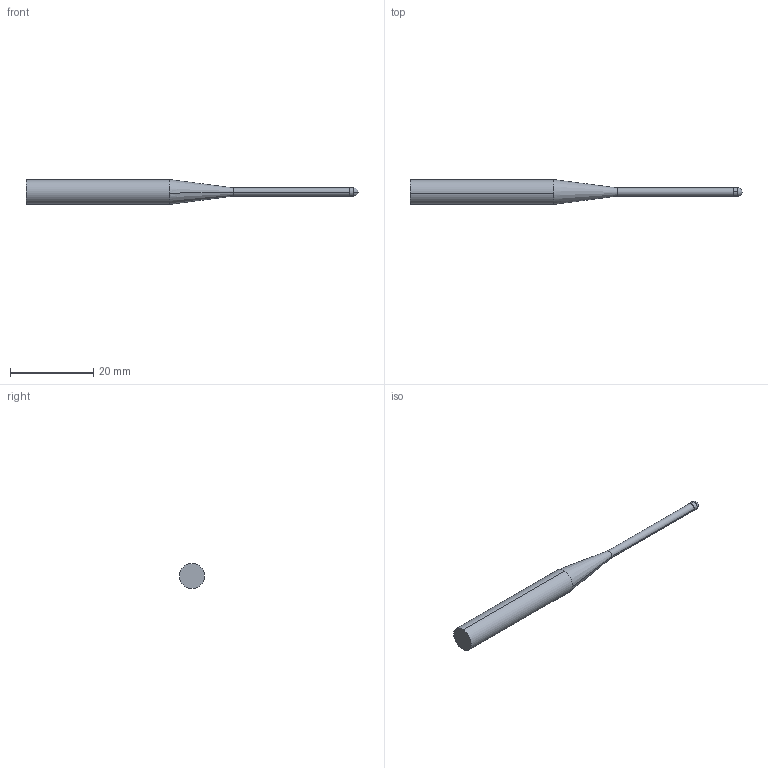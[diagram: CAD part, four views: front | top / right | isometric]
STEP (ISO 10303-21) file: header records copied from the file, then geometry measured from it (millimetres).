
FILE_DESCRIPTION (( 'STEP AP214' ), '1' );
FILE_NAME ('HM70xBNL2002.STEP', '2025-05-20T15:04:33', ( '' ), ( '' ), 'SwSTEP 2.0', 'SolidWorks 2023', '' );
FILE_SCHEMA (( 'AUTOMOTIVE_DESIGN' ));
Length unit declared in the file: millimetre
Products named in the file (3): HM70xBN SHANK ONLY_HM70xBNL2002; HM70xBNL2002; HM70xBN OD ONLY_HM70xBNL2002
Assembly tree (2 placements, depth 2):
  HM70xBNL2002
    HM70xBN OD ONLY_HM70xBNL2002
    HM70xBN SHANK ONLY_HM70xBNL2002
Bounding box: 80 x 5.98 x 5.98 mm (x, y, z)
Volume: 1273.3 mm3; surface area: 1063.4 mm2
Topology: 2 solids, 2 shells, 13 faces, 28 edges, 17 vertices
Faces by surface type: cylinder 6, plane 3, sphere 2, cone 2
Entity records: 438 total; most frequent: DIRECTION 80, CARTESIAN_POINT 61, ORIENTED_EDGE 52, AXIS2_PLACEMENT_3D 36, EDGE_CURVE 26, CIRCLE 18, VERTEX_POINT 17, ADVANCED_FACE 13
